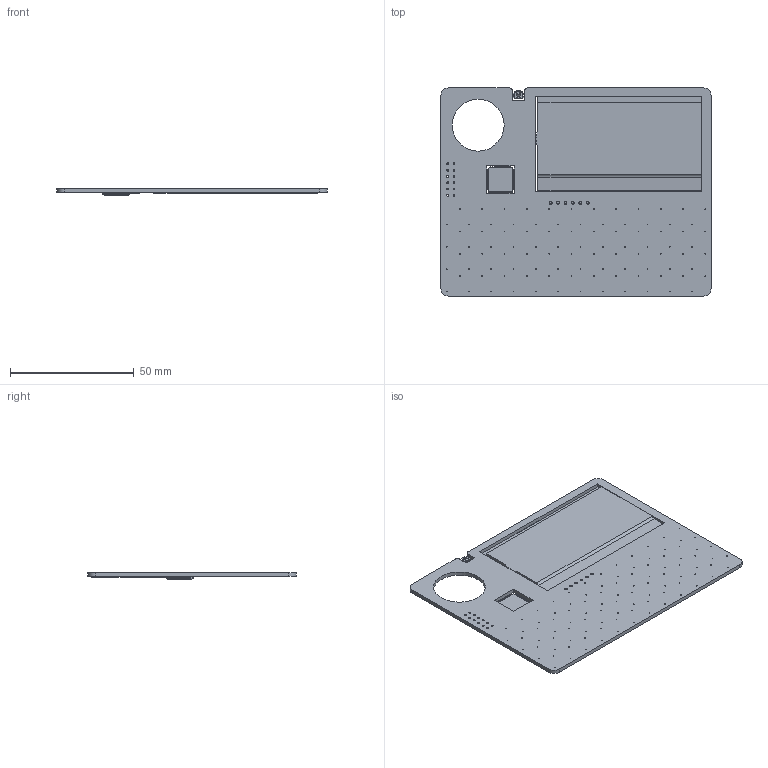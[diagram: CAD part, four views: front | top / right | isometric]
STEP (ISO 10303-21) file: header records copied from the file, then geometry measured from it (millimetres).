
FILE_DESCRIPTION(('Open CASCADE Model'),'2;1');
FILE_NAME('Open CASCADE Shape Model','2023-01-27T20:59:19',('Author'),( 'Open CASCADE'),'Open CASCADE STEP processor 6.8','Open CASCADE 6.8' ,'Unknown');
FILE_SCHEMA(('AUTOMOTIVE_DESIGN { 1 0 10303 214 1 1 1 1 }'));
Length unit declared in the file: millimetre
Products named in the file (19): PCB; Board; U1; QFP80P1200X1200X120-44N; SW1; User_Library-EVQP7-JA-01P; DSP1; dog; Solid026; Solid004; Solid010; C1; 652288368; Cylinder; C2; C3; C4; C5; C6
Assembly tree (23 placements, depth 4):
  PCB
    Board
    U1
      QFP80P1200X1200X120-44N
    SW1
      User_Library-EVQP7-JA-01P
    DSP1
      dog
        Solid026
        Solid004
        Solid010
    C1
      652288368
        Cylinder
    C2
      652288368
        Cylinder
    C3
      652288368
        Cylinder
    C4
      652288368
        Cylinder
    C5
      652288368
        Cylinder
    C6
      652288368
        Cylinder
Bounding box: 109 x 84 x 2.79 mm (x, y, z)
Volume: 14215.8 mm3; surface area: 24048.6 mm2
Topology: 55 solids, 56 shells, 1157 faces, 3137 edges, 2085 vertices
Faces by surface type: plane 577, bspline 308, cylinder 272
Full cylindrical faces by diameter (mm): 0.3 x96, 0.75 x12, 1 x6, 1.15 x6, 21 x1
Entity records: 40803 total; most frequent: CARTESIAN_POINT 8894, ORIENTED_EDGE 6176, DIRECTION 5405, EDGE_CURVE 3122, LINE 2361, VECTOR 2361, VERTEX_POINT 2075, AXIS2_PLACEMENT_3D 1522
